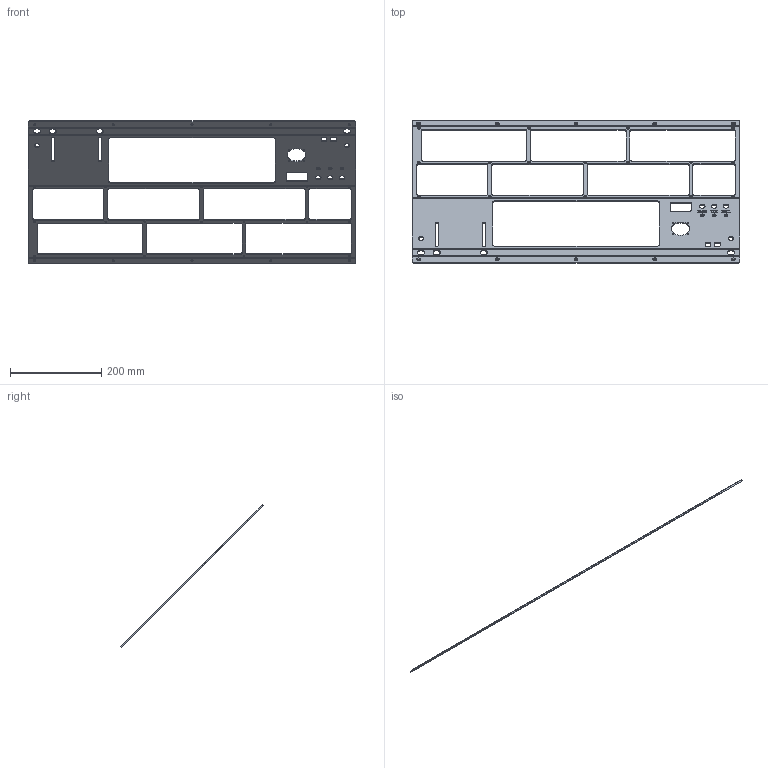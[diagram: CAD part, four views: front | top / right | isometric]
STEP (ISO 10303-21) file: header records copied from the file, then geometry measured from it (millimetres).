
FILE_DESCRIPTION(/* description */ (''),/* implementation_level */ '2;1');
FILE_NAME(/* name */ 'C:/Users/anton/Documents/Kerbal Space Program/Kerbal_Control_Panel/KCP2/CAD/ForManufacture/casing/Panel_TopPlate_v96_FlatPattern.step',/* time_stamp */ '2020-11-17T20:08:20-08:00',/* author */ (''),/* organization */ (''),/* preprocessor_version */ 'ST-DEVELOPER v18.1',/* originating_system */ 'Autodesk Translation Framework v9.3.0.1241',/* authorisation */ '');
FILE_SCHEMA (('AUTOMOTIVE_DESIGN { 1 0 10303 214 3 1 1 }'));
Length unit declared in the file: millimetre
Products named in the file (2): Top Plate; Labels
Assembly tree (1 placements, depth 2):
  Top Plate
    Labels
Bounding box: 717 x 312.3 x 312.3 mm (x, y, z)
Volume: 375960.8 mm3; surface area: 277518.2 mm2
Topology: 13 solids, 13 shells, 390 faces, 1034 edges, 670 vertices
Faces by surface type: plane 204, cylinder 97, bspline 63, cone 26
Full cylindrical faces by diameter (mm): 2.5 x4, 3.4 x16, 4.496 x10, 8.25 x3, 12 x5, 16 x4, 41 x1
Entity records: 12998 total; most frequent: CARTESIAN_POINT 3169, ORIENTED_EDGE 2068, DIRECTION 1790, EDGE_CURVE 1034, LINE 688, VECTOR 688, VERTEX_POINT 670, AXIS2_PLACEMENT_3D 551
